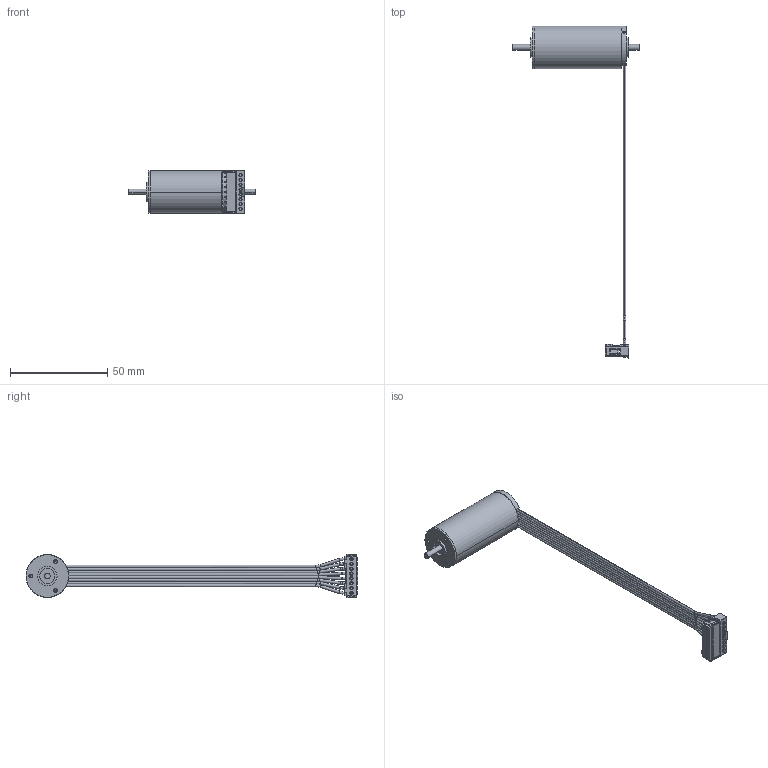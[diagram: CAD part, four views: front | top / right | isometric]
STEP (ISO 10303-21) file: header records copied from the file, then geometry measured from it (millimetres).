
FILE_DESCRIPTION((''),'2;1');
FILE_NAME('916774_ASM','2010-03-10T',('MMAGBRD'),(''),'PRO/ENGINEER BY PARAMETRIC TECHNOLOGY CORPORATION, 2009230','PRO/ENGINEER BY PARAMETRIC TECHNOLOGY CORPORATION, 2009230','');
FILE_SCHEMA(('CONFIG_CONTROL_DESIGN'));
Length unit declared in the file: millimetre
Products named in the file (1): 916774_ASM
Bounding box: 65 x 171 x 22.6 mm (x, y, z)
Volume: 21354.2 mm3; surface area: 12073.1 mm2
Topology: 2 solids, 9 shells, 570 faces, 1595 edges, 1008 vertices
Faces by surface type: plane 291, cylinder 201, torus 32, cone 30, bspline 8, sphere 8
Entity records: 19911 total; most frequent: CARTESIAN_POINT 5102, ORIENTED_EDGE 3114, DIRECTION 2983, EDGE_CURVE 1573, VERTEX_POINT 1008, AXIS2_PLACEMENT_3D 1003, VECTOR 977, LINE 977
